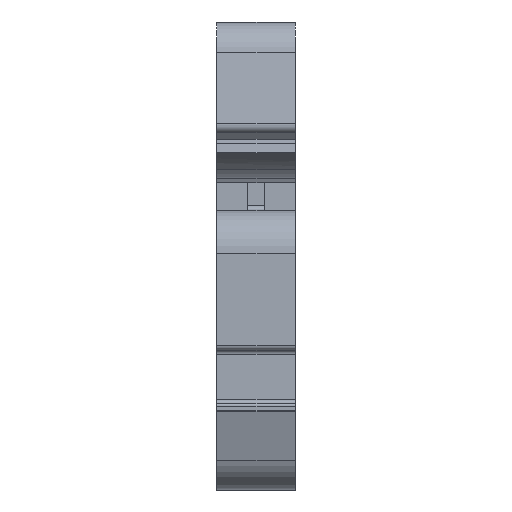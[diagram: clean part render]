
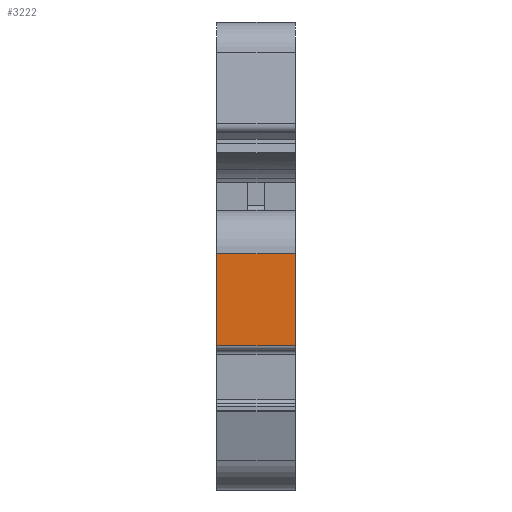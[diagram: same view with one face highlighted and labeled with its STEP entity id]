
A CAD part, left-side view. The second image highlights one B-rep face of the part: STEP entity #3222.
In plain terms, the highlighted planar face has unit normal (-1, 0, 0).
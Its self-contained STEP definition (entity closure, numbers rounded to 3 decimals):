
#237 = CARTESIAN_POINT ( 'NONE',  ( -98., -11.732, 2. ) ) ;
#521 = EDGE_CURVE ( 'NONE', #1325, #6383, #2376, .T. ) ;
#803 = ORIENTED_EDGE ( 'NONE', *, *, #5689, .F. ) ;
#1071 = VECTOR ( 'NONE', #5509, 1000. ) ;
#1089 = CARTESIAN_POINT ( 'NONE',  ( -98., 0., -25. ) ) ;
#1325 = VERTEX_POINT ( 'NONE', #1954 ) ;
#1387 = DIRECTION ( 'NONE',  ( 0., -1., 0. ) ) ;
#1563 = DIRECTION ( 'NONE',  ( 0., 0., 1. ) ) ;
#1630 = AXIS2_PLACEMENT_3D ( 'NONE', #3232, #3301, #1563 ) ;
#1884 = ORIENTED_EDGE ( 'NONE', *, *, #521, .T. ) ;
#1923 = VECTOR ( 'NONE', #1387, 1000. ) ;
#1954 = CARTESIAN_POINT ( 'NONE',  ( -98., 9., -8.5 ) ) ;
#2161 = PLANE ( 'NONE',  #1630 ) ;
#2323 = CARTESIAN_POINT ( 'NONE',  ( -98., 9., 0. ) ) ;
#2376 = LINE ( 'NONE', #2450, #1923 ) ;
#2450 = CARTESIAN_POINT ( 'NONE',  ( -98., 0., -8.5 ) ) ;
#2778 = ORIENTED_EDGE ( 'NONE', *, *, #5277, .F. ) ;
#3072 = VERTEX_POINT ( 'NONE', #3662 ) ;
#3222 = ADVANCED_FACE ( 'NONE', ( #3262 ), #2161, .T. ) ;
#3232 = CARTESIAN_POINT ( 'NONE',  ( -98., 0., -25. ) ) ;
#3262 = FACE_OUTER_BOUND ( 'NONE', #4969, .T. ) ;
#3301 = DIRECTION ( 'NONE',  ( -1., 0., 0. ) ) ;
#3332 = LINE ( 'NONE', #1089, #1071 ) ;
#3397 = VERTEX_POINT ( 'NONE', #3410 ) ;
#3410 = CARTESIAN_POINT ( 'NONE',  ( -98., 9., 2. ) ) ;
#3472 = CARTESIAN_POINT ( 'NONE',  ( -98., 0., -8.5 ) ) ;
#3514 = VECTOR ( 'NONE', #4546, 1000. ) ;
#3662 = CARTESIAN_POINT ( 'NONE',  ( -98., 0., 2. ) ) ;
#4465 = LINE ( 'NONE', #237, #3514 ) ;
#4546 = DIRECTION ( 'NONE',  ( 0., -1., 0. ) ) ;
#4969 = EDGE_LOOP ( 'NONE', ( #6012, #2778, #803, #1884 ) ) ;
#5113 = DIRECTION ( 'NONE',  ( 0., 0., 1. ) ) ;
#5277 = EDGE_CURVE ( 'NONE', #3397, #3072, #4465, .T. ) ;
#5509 = DIRECTION ( 'NONE',  ( 0., 0., 1. ) ) ;
#5643 = LINE ( 'NONE', #2323, #6818 ) ;
#5689 = EDGE_CURVE ( 'NONE', #1325, #3397, #5643, .T. ) ;
#6012 = ORIENTED_EDGE ( 'NONE', *, *, #6290, .T. ) ;
#6290 = EDGE_CURVE ( 'NONE', #6383, #3072, #3332, .T. ) ;
#6383 = VERTEX_POINT ( 'NONE', #3472 ) ;
#6818 = VECTOR ( 'NONE', #5113, 1000. ) ;
